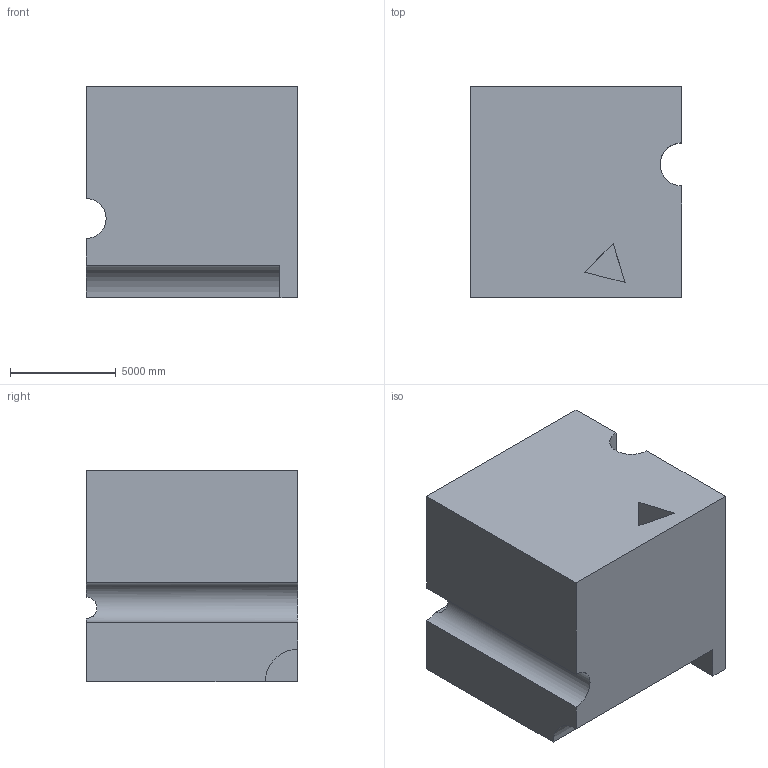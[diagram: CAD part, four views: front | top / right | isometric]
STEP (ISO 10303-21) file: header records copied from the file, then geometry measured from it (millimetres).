
FILE_DESCRIPTION (( 'STEP AP203' ), '1' );
FILE_NAME ('176.STEP', '2022-09-06T16:17:02', ( 'user' ), ( '' ), 'SwSTEP 2.0', 'SolidWorks 2021', '' );
FILE_SCHEMA (( 'CONFIG_CONTROL_DESIGN' ));
Length unit declared in the file: centimetre
Products named in the file (1): 176
Bounding box: 10000 x 10000 x 10000 mm (x, y, z)
Volume: 916936994443.8 mm3; surface area: 698630565.6 mm2
Topology: 1 solids, 1 shells, 30 faces, 72 edges, 48 vertices
Faces by surface type: plane 19, cylinder 11
Entity records: 1072 total; most frequent: CARTESIAN_POINT 270, DIRECTION 155, ORIENTED_EDGE 144, EDGE_CURVE 72, AXIS2_PLACEMENT_3D 53, LINE 49, VECTOR 49, VERTEX_POINT 48
